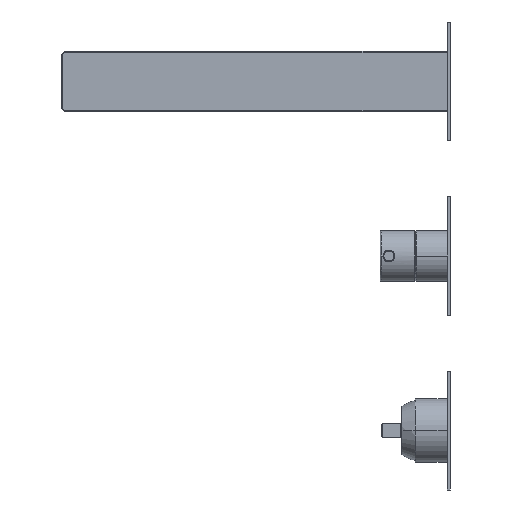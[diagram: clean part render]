
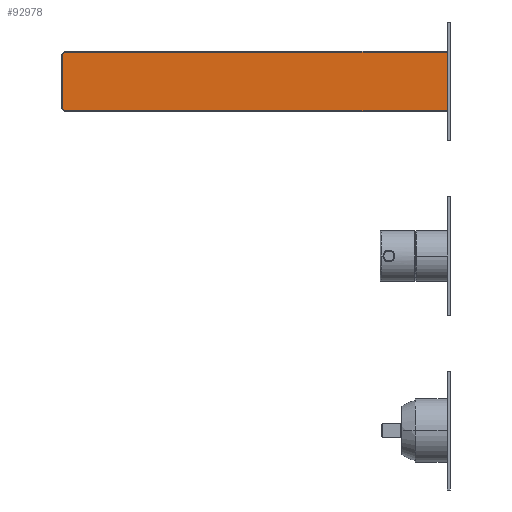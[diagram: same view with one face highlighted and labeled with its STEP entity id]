
A CAD part, left-side view. The second image highlights one B-rep face of the part: STEP entity #92978.
In plain terms, the highlighted planar face has unit normal (-1, 0, 0).
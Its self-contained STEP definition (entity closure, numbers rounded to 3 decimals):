
#84714=DIRECTION('',(0.,0.,-1.));
#84715=VECTOR('',#84714,37.);
#84716=CARTESIAN_POINT('',(-12.,77.,128.5));
#84717=LINE('',#84716,#84715);
#84718=DIRECTION('',(0.,-1.,0.));
#84719=VECTOR('',#84718,240.);
#84720=CARTESIAN_POINT('',(-12.,317.,91.5));
#84721=LINE('',#84720,#84719);
#84722=CARTESIAN_POINT('',(-12.,317.,94.));
#84723=DIRECTION('',(-1.,0.,0.));
#84724=DIRECTION('',(0.,1.,0.));
#84725=AXIS2_PLACEMENT_3D('',#84722,#84723,#84724);
#84727=DIRECTION('',(0.,0.,-1.));
#84728=VECTOR('',#84727,32.);
#84729=CARTESIAN_POINT('',(-12.,319.5,126.));
#84730=LINE('',#84729,#84728);
#84731=CARTESIAN_POINT('',(-12.,317.,126.));
#84732=DIRECTION('',(-1.,0.,0.));
#84733=DIRECTION('',(0.,0.,1.));
#84734=AXIS2_PLACEMENT_3D('',#84731,#84732,#84733);
#84736=DIRECTION('',(0.,1.,0.));
#84737=VECTOR('',#84736,240.);
#84738=CARTESIAN_POINT('',(-12.,77.,128.5));
#84739=LINE('',#84738,#84737);
#85549=CARTESIAN_POINT('',(-12.,319.5,94.));
#85550=CARTESIAN_POINT('',(-12.,317.,91.5));
#85551=VERTEX_POINT('',#85549);
#85552=VERTEX_POINT('',#85550);
#85557=CARTESIAN_POINT('',(-12.,319.5,126.));
#85558=VERTEX_POINT('',#85557);
#85559=CARTESIAN_POINT('',(-12.,317.,128.5));
#85560=VERTEX_POINT('',#85559);
#85608=CARTESIAN_POINT('',(-12.,77.,128.5));
#85609=CARTESIAN_POINT('',(-12.,77.,91.5));
#85610=VERTEX_POINT('',#85608);
#85611=VERTEX_POINT('',#85609);
#92961=CARTESIAN_POINT('',(-12.,73.,110.));
#92962=DIRECTION('',(-1.,0.,0.));
#92963=DIRECTION('',(0.,1.,0.));
#92964=AXIS2_PLACEMENT_3D('',#92961,#92962,#92963);
#92965=PLANE('',#92964);
#92966=ORIENTED_EDGE('',*,*,#89138,.T.);
#92968=ORIENTED_EDGE('',*,*,#92967,.F.);
#92969=ORIENTED_EDGE('',*,*,#92951,.F.);
#92971=ORIENTED_EDGE('',*,*,#92970,.F.);
#92973=ORIENTED_EDGE('',*,*,#92972,.F.);
#92975=ORIENTED_EDGE('',*,*,#92974,.F.);
#92976=EDGE_LOOP('',(#92966,#92968,#92969,#92971,#92973,#92975));
#92977=FACE_OUTER_BOUND('',#92976,.F.);
#92978=ADVANCED_FACE('',(#92977),#92965,.T.);
#84726=CIRCLE('',#84725,2.5);
#84735=CIRCLE('',#84734,2.5);
#89138=EDGE_CURVE('',#85610,#85611,#84717,.T.);
#92951=EDGE_CURVE('',#85551,#85552,#84726,.T.);
#92967=EDGE_CURVE('',#85552,#85611,#84721,.T.);
#92970=EDGE_CURVE('',#85558,#85551,#84730,.T.);
#92972=EDGE_CURVE('',#85560,#85558,#84735,.T.);
#92974=EDGE_CURVE('',#85610,#85560,#84739,.T.);
